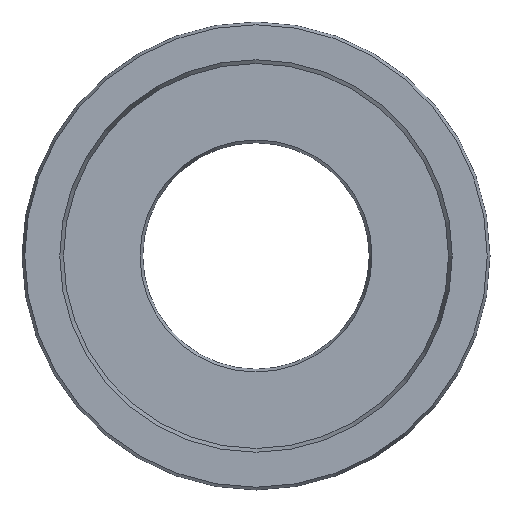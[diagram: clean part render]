
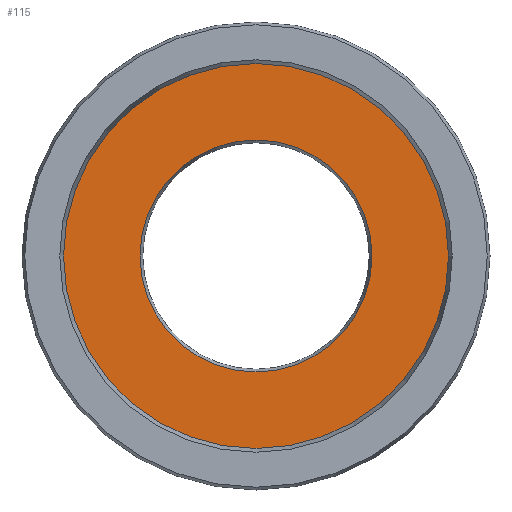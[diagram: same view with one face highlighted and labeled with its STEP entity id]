
A CAD part, left-side view. The second image highlights one B-rep face of the part: STEP entity #115.
In plain terms, the highlighted planar face has unit normal (-1, 0, 0).
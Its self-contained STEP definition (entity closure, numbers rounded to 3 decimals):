
#115=ADVANCED_FACE('',(#149,#150),#141,.F.);
#141=PLANE('',#386);
#149=FACE_BOUND('',#201,.T.);
#150=FACE_BOUND('',#202,.T.);
#201=EDGE_LOOP('',(#253));
#202=EDGE_LOOP('',(#254));
#253=ORIENTED_EDGE('',*,*,#331,.T.);
#254=ORIENTED_EDGE('',*,*,#332,.T.);
#305=VERTEX_POINT('',#544);
#306=VERTEX_POINT('',#546);
#331=EDGE_CURVE('',#305,#305,#357,.T.);
#332=EDGE_CURVE('',#306,#306,#358,.T.);
#357=CIRCLE('',#384,15.364);
#358=CIRCLE('',#385,25.5);
#384=AXIS2_PLACEMENT_3D('',#543,#438,#439);
#385=AXIS2_PLACEMENT_3D('',#545,#440,#441);
#386=AXIS2_PLACEMENT_3D('',#547,#442,#443);
#438=DIRECTION('',(1.,0.,0.));
#439=DIRECTION('',(0.,0.,-1.));
#440=DIRECTION('',(-1.,0.,0.));
#441=DIRECTION('',(0.,0.,1.));
#442=DIRECTION('',(1.,0.,0.));
#443=DIRECTION('',(0.,0.,-1.));
#543=CARTESIAN_POINT('',(0.,0.,0.));
#544=CARTESIAN_POINT('',(0.,0.,-15.364));
#545=CARTESIAN_POINT('',(0.,0.,0.));
#546=CARTESIAN_POINT('',(0.,0.,25.5));
#547=CARTESIAN_POINT('',(0.,25.5,0.));
